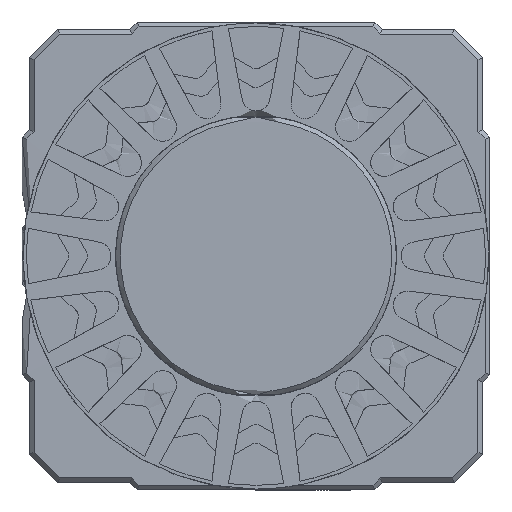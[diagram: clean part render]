
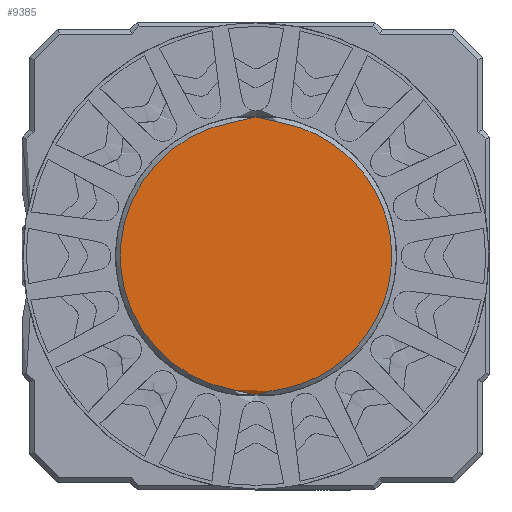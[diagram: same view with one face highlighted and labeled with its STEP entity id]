
A CAD part, front view. The second image highlights one B-rep face of the part: STEP entity #9385.
In plain terms, the highlighted planar face has unit normal (0, -1, 0).
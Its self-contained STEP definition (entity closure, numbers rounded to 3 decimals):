
#68 = CARTESIAN_POINT ( 'NONE',  ( 0., 0., 0. ) ) ;
#236 = VERTEX_POINT ( 'NONE', #17136 ) ;
#590 = CARTESIAN_POINT ( 'NONE',  ( -11.528, 0., 8.847 ) ) ;
#846 = CARTESIAN_POINT ( 'NONE',  ( 14.5, 0., 1.898 ) ) ;
#911 = CARTESIAN_POINT ( 'NONE',  ( -1.895, 0., 14.407 ) ) ;
#2438 = CARTESIAN_POINT ( 'NONE',  ( -14.036, 0., 3.762 ) ) ;
#2699 = CARTESIAN_POINT ( 'NONE',  ( 0., 0., 14.5 ) ) ;
#3853 = CARTESIAN_POINT ( 'NONE',  ( -9.58, 0., 10.926 ) ) ;
#3958 = CARTESIAN_POINT ( 'NONE',  ( -6.428, 0., -13.032 ) ) ;
#4065 = CARTESIAN_POINT ( 'NONE',  ( -10.926, 0., -9.58 ) ) ;
#4181 = CARTESIAN_POINT ( 'NONE',  ( -13.032, 0., 6.428 ) ) ;
#4221 = CARTESIAN_POINT ( 'NONE',  ( 3.795, 0., -14.123 ) ) ;
#4436 = CARTESIAN_POINT ( 'NONE',  ( 8.911, 0., -11.595 ) ) ;
#4538 = CARTESIAN_POINT ( 'NONE',  ( 7.302, 0., -12.67 ) ) ;
#5062 = DIRECTION ( 'NONE',  ( 0., 0., -1. ) ) ;
#5369 = CARTESIAN_POINT ( 'NONE',  ( -12.585, 0., 7.264 ) ) ;
#5479 = CARTESIAN_POINT ( 'NONE',  ( -7.264, 0., 12.585 ) ) ;
#5587 = CARTESIAN_POINT ( 'NONE',  ( -12.585, 0., -7.264 ) ) ;
#5698 = CARTESIAN_POINT ( 'NONE',  ( -11.528, 0., -8.847 ) ) ;
#5846 = CARTESIAN_POINT ( 'NONE',  ( 14.5, 0., -1.898 ) ) ;
#7112 = CARTESIAN_POINT ( 'NONE',  ( -14.036, 0., -3.762 ) ) ;
#7215 = CARTESIAN_POINT ( 'NONE',  ( -8.847, 0., 11.528 ) ) ;
#7323 = CARTESIAN_POINT ( 'NONE',  ( -14.407, 0., -1.895 ) ) ;
#7353 = ORIENTED_EDGE ( 'NONE', *, *, #10840, .T. ) ;
#8937 = CARTESIAN_POINT ( 'NONE',  ( -10.926, 0., 9.58 ) ) ;
#9197 = CARTESIAN_POINT ( 'NONE',  ( 1.898, 0., 14.5 ) ) ;
#9385 = ADVANCED_FACE ( 'NONE', ( #21385 ), #16526, .T. ) ;
#9413 = CARTESIAN_POINT ( 'NONE',  ( 0., 0., -14.5 ) ) ;
#10308 = AXIS2_PLACEMENT_3D ( 'NONE', #68, #13089, #5062 ) ;
#10459 = CARTESIAN_POINT ( 'NONE',  ( -8.847, 0., -11.528 ) ) ;
#10568 = CARTESIAN_POINT ( 'NONE',  ( -0.952, 0., -14.5 ) ) ;
#10723 = CARTESIAN_POINT ( 'NONE',  ( 0., 1.544, 14.847 ) ) ;
#10787 = CARTESIAN_POINT ( 'NONE',  ( -7.264, 0., -12.585 ) ) ;
#10827 = CARTESIAN_POINT ( 'NONE',  ( 11.595, 0., -8.911 ) ) ;
#10840 = EDGE_CURVE ( 'NONE', #17329, #236, #19296, .T. ) ;
#11072 = EDGE_LOOP ( 'NONE', ( #18974, #7353 ) ) ;
#12085 = CARTESIAN_POINT ( 'NONE',  ( -4.67, 0., -13.76 ) ) ;
#12301 = CARTESIAN_POINT ( 'NONE',  ( -6.428, 0., 13.032 ) ) ;
#12407 = CARTESIAN_POINT ( 'NONE',  ( -4.67, 0., 13.76 ) ) ;
#12449 = CARTESIAN_POINT ( 'NONE',  ( 8.911, 0., 11.595 ) ) ;
#12669 = CARTESIAN_POINT ( 'NONE',  ( 12.67, 0., 7.302 ) ) ;
#13089 = DIRECTION ( 'NONE',  ( 0., -1., 0. ) ) ;
#13603 = CARTESIAN_POINT ( 'NONE',  ( -14.5, 0., -0.952 ) ) ;
#13821 = CARTESIAN_POINT ( 'NONE',  ( -13.032, 0., -6.428 ) ) ;
#13932 = CARTESIAN_POINT ( 'NONE',  ( -3.762, 0., 14.036 ) ) ;
#14305 = CARTESIAN_POINT ( 'NONE',  ( 11.595, 0., 8.911 ) ) ;
#14406 = CARTESIAN_POINT ( 'NONE',  ( 3.795, 0., 14.123 ) ) ;
#15434 = CARTESIAN_POINT ( 'NONE',  ( -0.952, 0., 14.5 ) ) ;
#15645 = CARTESIAN_POINT ( 'NONE',  ( -3.762, 0., -14.036 ) ) ;
#15757 = CARTESIAN_POINT ( 'NONE',  ( 0., 0., 14.5 ) ) ;
#15796 = CARTESIAN_POINT ( 'NONE',  ( 7.302, 0., 12.67 ) ) ;
#15902 = CARTESIAN_POINT ( 'NONE',  ( 1.898, 0., -14.5 ) ) ;
#16362 = EDGE_CURVE ( 'NONE', #17329, #236, #20567, .T. ) ;
#16526 = PLANE ( 'NONE',  #10308 ) ;
#17136 = CARTESIAN_POINT ( 'NONE',  ( 0., 1.544, -14.847 ) ) ;
#17150 = CARTESIAN_POINT ( 'NONE',  ( 0., 0., -14.5 ) ) ;
#17255 = CARTESIAN_POINT ( 'NONE',  ( -13.76, 0., 4.67 ) ) ;
#17329 = VERTEX_POINT ( 'NONE', #10723 ) ;
#17407 = CARTESIAN_POINT ( 'NONE',  ( 14.123, 0., -3.795 ) ) ;
#18657 = CARTESIAN_POINT ( 'NONE',  ( -14.5, 0., 0.952 ) ) ;
#18763 = CARTESIAN_POINT ( 'NONE',  ( -9.58, 0., -10.926 ) ) ;
#18875 = CARTESIAN_POINT ( 'NONE',  ( -14.407, 0., 1.895 ) ) ;
#18974 = ORIENTED_EDGE ( 'NONE', *, *, #16362, .F. ) ;
#19026 = CARTESIAN_POINT ( 'NONE',  ( 14.123, 0., 3.795 ) ) ;
#19296 = B_SPLINE_CURVE_WITH_KNOTS ( 'NONE', 3,
 ( #15757, #15434, #911, #13932, #12407, #12301, #5479, #7215, #3853, #8937, #590, #5369, #4181, #17255, #2438, #18875, #18657, #13603, #7323, #7112, #20391, #13821, #5587, #5698, #4065, #18763, #10459, #10787, #3958, #12085, #15645, #20281, #10568, #17150 ),
 .UNSPECIFIED., .F., .F.,
 ( 4, 2, 2, 2, 2, 2, 2, 2, 2, 2, 2, 2, 2, 2, 2, 2, 4 ),
 ( 0., 0.063, 0.125, 0.188, 0.25, 0.313, 0.375, 0.438, 0.5, 0.563, 0.625, 0.688, 0.75, 0.813, 0.875, 0.938, 1. ),
 .UNSPECIFIED. ) ;
#20281 = CARTESIAN_POINT ( 'NONE',  ( -1.895, 0., -14.407 ) ) ;
#20391 = CARTESIAN_POINT ( 'NONE',  ( -13.76, 0., -4.67 ) ) ;
#20567 = B_SPLINE_CURVE_WITH_KNOTS ( 'NONE', 3,
 ( #2699, #9197, #14406, #15796, #12449, #14305, #12669, #19026, #846, #5846, #17407, #20969, #10827, #4436, #4538, #4221, #15902, #9413 ),
 .UNSPECIFIED., .F., .F.,
 ( 4, 2, 2, 2, 2, 2, 2, 2, 4 ),
 ( 0., 0.125, 0.25, 0.375, 0.5, 0.625, 0.75, 0.875, 1. ),
 .UNSPECIFIED. ) ;
#20969 = CARTESIAN_POINT ( 'NONE',  ( 12.67, 0., -7.302 ) ) ;
#21385 = FACE_OUTER_BOUND ( 'NONE', #11072, .T. ) ;
